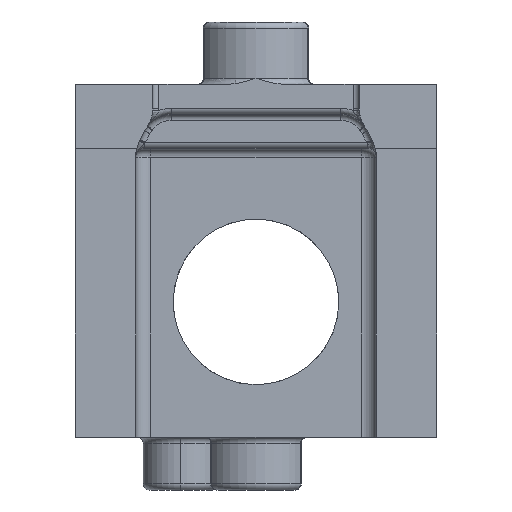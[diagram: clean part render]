
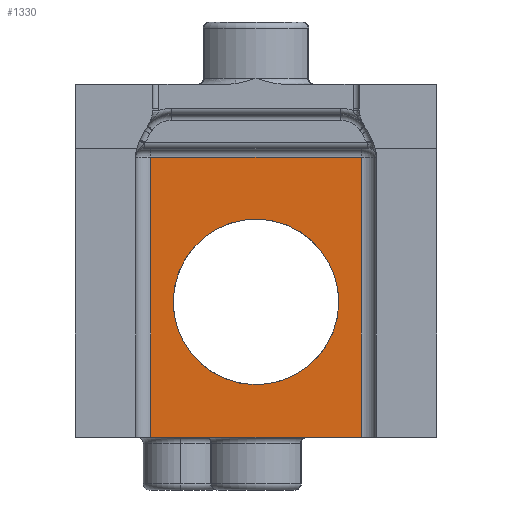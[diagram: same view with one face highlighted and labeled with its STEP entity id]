
A CAD part, left-side view. The second image highlights one B-rep face of the part: STEP entity #1330.
In plain terms, the highlighted planar face has unit normal (-1, 0, 0).
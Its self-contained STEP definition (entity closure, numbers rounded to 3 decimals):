
#191=AXIS2_PLACEMENT_3D('Circle Axis2P3D',#189,#190,$) ;
#1041=AXIS2_PLACEMENT_3D('Circle Axis2P3D',#1039,#1040,$) ;
#1299=AXIS2_PLACEMENT_3D('Plane Axis2P3D',#1296,#1297,#1298) ;
#186=CARTESIAN_POINT('Vertex',(11.,8.413,3.182)) ;
#189=CARTESIAN_POINT('Axis2P3D Location',(11.,6.,4.5)) ;
#193=CARTESIAN_POINT('Vertex',(11.,3.587,5.818)) ;
#1039=CARTESIAN_POINT('Axis2P3D Location',(11.,6.,4.5)) ;
#1267=CARTESIAN_POINT('Vertex',(11.,9.5,9.3)) ;
#1281=CARTESIAN_POINT('Vertex',(11.,9.5,0.)) ;
#1284=CARTESIAN_POINT('Line Origine',(11.,9.5,4.8)) ;
#1296=CARTESIAN_POINT('Axis2P3D Location',(11.,0.,0.)) ;
#1301=CARTESIAN_POINT('Line Origine',(11.,6.,9.3)) ;
#1305=CARTESIAN_POINT('Vertex',(11.,2.5,9.3)) ;
#1308=CARTESIAN_POINT('Line Origine',(11.,6.,0.)) ;
#1312=CARTESIAN_POINT('Vertex',(11.,2.5,0.)) ;
#1315=CARTESIAN_POINT('Line Origine',(11.,2.5,4.65)) ;
#190=DIRECTION('Axis2P3D Direction',(-1.,0.,-0.)) ;
#1040=DIRECTION('Axis2P3D Direction',(-1.,0.,-0.)) ;
#1285=DIRECTION('Vector Direction',(0.,0.,1.)) ;
#1297=DIRECTION('Axis2P3D Direction',(1.,0.,0.)) ;
#1298=DIRECTION('Axis2P3D XDirection',(0.,1.,0.)) ;
#1302=DIRECTION('Vector Direction',(0.,1.,0.)) ;
#1309=DIRECTION('Vector Direction',(0.,-1.,0.)) ;
#1316=DIRECTION('Vector Direction',(0.,0.,-1.)) ;
#1286=VECTOR('Line Direction',#1285,1.) ;
#1303=VECTOR('Line Direction',#1302,1.) ;
#1310=VECTOR('Line Direction',#1309,1.) ;
#1317=VECTOR('Line Direction',#1316,1.) ;
#1321=ORIENTED_EDGE('',*,*,#1307,.F.) ;
#1322=ORIENTED_EDGE('',*,*,#1288,.F.) ;
#1323=ORIENTED_EDGE('',*,*,#1314,.T.) ;
#1324=ORIENTED_EDGE('',*,*,#1319,.T.) ;
#1327=ORIENTED_EDGE('',*,*,#1043,.T.) ;
#1328=ORIENTED_EDGE('',*,*,#195,.T.) ;
#1329=FACE_BOUND('',#1326,.T.) ;
#1330=ADVANCED_FACE('Body.1',(#1325,#1329),#1300,.F.) ;
#192=CIRCLE('generated circle',#191,2.75) ;
#1042=CIRCLE('generated circle',#1041,2.75) ;
#195=EDGE_CURVE('',#194,#187,#192,.F.) ;
#1043=EDGE_CURVE('',#187,#194,#1042,.F.) ;
#1288=EDGE_CURVE('',#1282,#1268,#1287,.T.) ;
#1307=EDGE_CURVE('',#1268,#1306,#1304,.F.) ;
#1314=EDGE_CURVE('',#1282,#1313,#1311,.T.) ;
#1319=EDGE_CURVE('',#1313,#1306,#1318,.F.) ;
#1320=EDGE_LOOP('',(#1321,#1322,#1323,#1324)) ;
#1326=EDGE_LOOP('',(#1327,#1328)) ;
#1325=FACE_OUTER_BOUND('',#1320,.T.) ;
#1287=LINE('Line',#1284,#1286) ;
#1304=LINE('Line',#1301,#1303) ;
#1311=LINE('Line',#1308,#1310) ;
#1318=LINE('Line',#1315,#1317) ;
#1300=PLANE('Plane',#1299) ;
#187=VERTEX_POINT('',#186) ;
#194=VERTEX_POINT('',#193) ;
#1268=VERTEX_POINT('',#1267) ;
#1282=VERTEX_POINT('',#1281) ;
#1306=VERTEX_POINT('',#1305) ;
#1313=VERTEX_POINT('',#1312) ;
